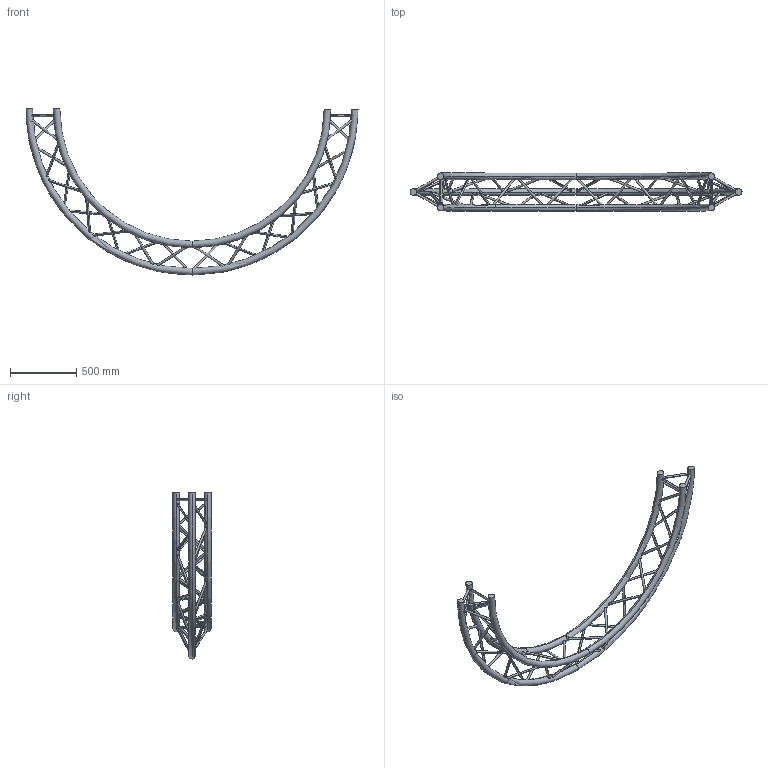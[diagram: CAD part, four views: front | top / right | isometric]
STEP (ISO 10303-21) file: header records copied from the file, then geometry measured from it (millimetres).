
FILE_DESCRIPTION (( 'STEP AP203' ), '1' );
FILE_NAME ('SXC29250PE.STEP', '2009-10-21T09:38:58', ( 'CEDIA' ), ( 'CEDIA INDUSTRIE' ), 'SwSTEP 2.0', 'SolidWorks 2009', '' );
FILE_SCHEMA (( 'CONFIG_CONTROL_DESIGN' ));
Length unit declared in the file: millimetre
Products named in the file (1): SXC29250PE
Bounding box: 2500 x 287 x 1250 mm (x, y, z)
Volume: 22567361.1 mm3; surface area: 2206566.4 mm2
Topology: 1 solids, 1 shells, 114 faces, 318 edges, 210 vertices
Faces by surface type: cylinder 96, torus 12, plane 6
Entity records: 12418 total; most frequent: CARTESIAN_POINT 9580, ORIENTED_EDGE 636, DIRECTION 386, EDGE_CURVE 318, VERTEX_POINT 210, EDGE_LOOP 210, B_SPLINE_CURVE_WITH_KNOTS 192, AXIS2_PLACEMENT_3D 145
